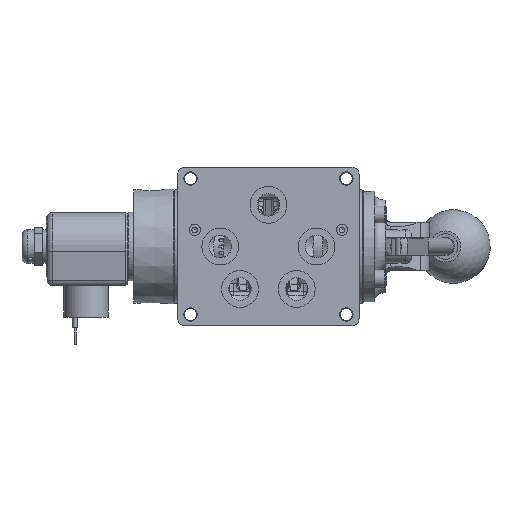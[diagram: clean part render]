
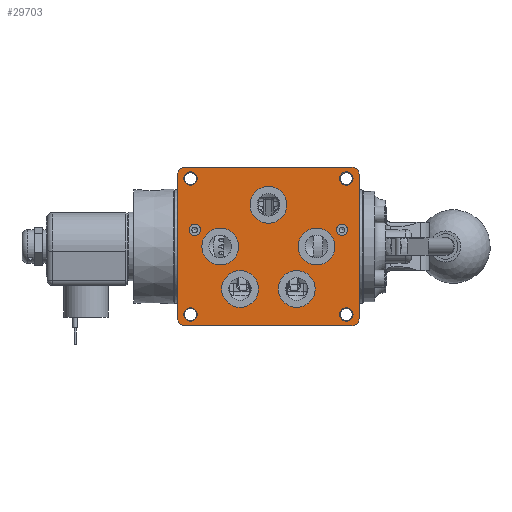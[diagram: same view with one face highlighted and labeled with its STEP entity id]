
A CAD part, front view. The second image highlights one B-rep face of the part: STEP entity #29703.
In plain terms, the highlighted planar face has unit normal (0, -1, 0).
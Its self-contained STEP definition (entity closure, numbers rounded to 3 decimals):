
#2773=PLANE('',#31859);
#3362=FACE_BOUND('',#5700,.T.);
#3363=FACE_BOUND('',#5701,.T.);
#3364=FACE_BOUND('',#5702,.T.);
#3365=FACE_BOUND('',#5703,.T.);
#3366=FACE_BOUND('',#5704,.T.);
#3367=FACE_BOUND('',#5705,.T.);
#3368=FACE_BOUND('',#5706,.T.);
#3369=FACE_BOUND('',#5707,.T.);
#3370=FACE_BOUND('',#5708,.T.);
#3371=FACE_BOUND('',#5709,.T.);
#3372=FACE_BOUND('',#5710,.T.);
#3822=FACE_OUTER_BOUND('',#5699,.T.);
#5699=EDGE_LOOP('',(#21652,#21653,#21654,#21655,#21656,#21657,#21658,#21659));
#5700=EDGE_LOOP('',(#21660));
#5701=EDGE_LOOP('',(#21661));
#5702=EDGE_LOOP('',(#21662));
#5703=EDGE_LOOP('',(#21663));
#5704=EDGE_LOOP('',(#21664));
#5705=EDGE_LOOP('',(#21665));
#5706=EDGE_LOOP('',(#21666));
#5707=EDGE_LOOP('',(#21667));
#5708=EDGE_LOOP('',(#21668));
#5709=EDGE_LOOP('',(#21669));
#5710=EDGE_LOOP('',(#21670));
#8880=LINE('',#45740,#10444);
#8881=LINE('',#45744,#10445);
#8882=LINE('',#45748,#10446);
#8883=LINE('',#45751,#10447);
#10444=VECTOR('',#35729,1.);
#10445=VECTOR('',#35732,1.);
#10446=VECTOR('',#35735,1.);
#10447=VECTOR('',#35738,1.);
#11933=CIRCLE('',#31610,0.318);
#11937=CIRCLE('',#31618,0.318);
#11943=CIRCLE('',#31631,1.031);
#11949=CIRCLE('',#31641,1.031);
#11968=CIRCLE('',#31681,1.031);
#11980=CIRCLE('',#31705,1.031);
#11988=CIRCLE('',#31718,1.031);
#11996=CIRCLE('',#31740,0.381);
#11998=CIRCLE('',#31743,0.381);
#12000=CIRCLE('',#31746,0.381);
#12002=CIRCLE('',#31749,0.381);
#12062=CIRCLE('',#31860,0.397);
#12063=CIRCLE('',#31861,0.397);
#12064=CIRCLE('',#31862,0.397);
#12065=CIRCLE('',#31863,0.397);
#13478=VERTEX_POINT('',#43422);
#13483=VERTEX_POINT('',#43438);
#13509=VERTEX_POINT('',#43660);
#13528=VERTEX_POINT('',#43830);
#13601=VERTEX_POINT('',#44425);
#13626=VERTEX_POINT('',#44685);
#13642=VERTEX_POINT('',#44854);
#13704=VERTEX_POINT('',#45508);
#13706=VERTEX_POINT('',#45514);
#13708=VERTEX_POINT('',#45520);
#13710=VERTEX_POINT('',#45526);
#13770=VERTEX_POINT('',#45736);
#13771=VERTEX_POINT('',#45737);
#13772=VERTEX_POINT('',#45739);
#13773=VERTEX_POINT('',#45741);
#13774=VERTEX_POINT('',#45743);
#13775=VERTEX_POINT('',#45745);
#13776=VERTEX_POINT('',#45747);
#13777=VERTEX_POINT('',#45749);
#16351=EDGE_CURVE('',#13478,#13478,#11933,.T.);
#16358=EDGE_CURVE('',#13483,#13483,#11937,.T.);
#16389=EDGE_CURVE('',#13509,#13509,#11943,.T.);
#16409=EDGE_CURVE('',#13528,#13528,#11949,.T.);
#16505=EDGE_CURVE('',#13601,#13601,#11968,.T.);
#16542=EDGE_CURVE('',#13626,#13626,#11980,.T.);
#16562=EDGE_CURVE('',#13642,#13642,#11988,.T.);
#16644=EDGE_CURVE('',#13704,#13704,#11996,.T.);
#16647=EDGE_CURVE('',#13706,#13706,#11998,.T.);
#16650=EDGE_CURVE('',#13708,#13708,#12000,.T.);
#16653=EDGE_CURVE('',#13710,#13710,#12002,.T.);
#16752=EDGE_CURVE('',#13770,#13771,#12062,.T.);
#16753=EDGE_CURVE('',#13771,#13772,#8880,.T.);
#16754=EDGE_CURVE('',#13772,#13773,#12063,.T.);
#16755=EDGE_CURVE('',#13773,#13774,#8881,.T.);
#16756=EDGE_CURVE('',#13774,#13775,#12064,.T.);
#16757=EDGE_CURVE('',#13775,#13776,#8882,.T.);
#16758=EDGE_CURVE('',#13776,#13777,#12065,.T.);
#16759=EDGE_CURVE('',#13777,#13770,#8883,.T.);
#21652=ORIENTED_EDGE('',*,*,#16752,.T.);
#21653=ORIENTED_EDGE('',*,*,#16753,.T.);
#21654=ORIENTED_EDGE('',*,*,#16754,.T.);
#21655=ORIENTED_EDGE('',*,*,#16755,.T.);
#21656=ORIENTED_EDGE('',*,*,#16756,.T.);
#21657=ORIENTED_EDGE('',*,*,#16757,.T.);
#21658=ORIENTED_EDGE('',*,*,#16758,.T.);
#21659=ORIENTED_EDGE('',*,*,#16759,.T.);
#21660=ORIENTED_EDGE('',*,*,#16351,.T.);
#21661=ORIENTED_EDGE('',*,*,#16358,.T.);
#21662=ORIENTED_EDGE('',*,*,#16389,.T.);
#21663=ORIENTED_EDGE('',*,*,#16409,.T.);
#21664=ORIENTED_EDGE('',*,*,#16505,.T.);
#21665=ORIENTED_EDGE('',*,*,#16542,.T.);
#21666=ORIENTED_EDGE('',*,*,#16562,.T.);
#21667=ORIENTED_EDGE('',*,*,#16644,.T.);
#21668=ORIENTED_EDGE('',*,*,#16647,.T.);
#21669=ORIENTED_EDGE('',*,*,#16650,.T.);
#21670=ORIENTED_EDGE('',*,*,#16653,.T.);
#29703=ADVANCED_FACE('',(#3822,#3362,#3363,#3364,#3365,#3366,#3367,#3368,
#3369,#3370,#3371,#3372),#2773,.T.);
#31610=AXIS2_PLACEMENT_3D('',#43423,#35131,#35132);
#31618=AXIS2_PLACEMENT_3D('',#43439,#35150,#35151);
#31631=AXIS2_PLACEMENT_3D('',#43661,#35180,#35181);
#31641=AXIS2_PLACEMENT_3D('',#43831,#35201,#35202);
#31681=AXIS2_PLACEMENT_3D('',#44426,#35303,#35304);
#31705=AXIS2_PLACEMENT_3D('',#44686,#35359,#35360);
#31718=AXIS2_PLACEMENT_3D('',#44855,#35387,#35388);
#31740=AXIS2_PLACEMENT_3D('',#45509,#35445,#35446);
#31743=AXIS2_PLACEMENT_3D('',#45515,#35452,#35453);
#31746=AXIS2_PLACEMENT_3D('',#45521,#35459,#35460);
#31749=AXIS2_PLACEMENT_3D('',#45527,#35466,#35467);
#31859=AXIS2_PLACEMENT_3D('',#45735,#35725,#35726);
#31860=AXIS2_PLACEMENT_3D('',#45738,#35727,#35728);
#31861=AXIS2_PLACEMENT_3D('',#45742,#35730,#35731);
#31862=AXIS2_PLACEMENT_3D('',#45746,#35733,#35734);
#31863=AXIS2_PLACEMENT_3D('',#45750,#35736,#35737);
#35131=DIRECTION('center_axis',(0.,1.,0.));
#35132=DIRECTION('ref_axis',(1.,0.,0.));
#35150=DIRECTION('center_axis',(0.,1.,0.));
#35151=DIRECTION('ref_axis',(1.,0.,0.));
#35180=DIRECTION('center_axis',(0.,1.,0.));
#35181=DIRECTION('ref_axis',(1.,0.,0.));
#35201=DIRECTION('center_axis',(0.,1.,0.));
#35202=DIRECTION('ref_axis',(1.,0.,0.));
#35303=DIRECTION('center_axis',(0.,1.,0.));
#35304=DIRECTION('ref_axis',(1.,0.,0.));
#35359=DIRECTION('center_axis',(0.,1.,0.));
#35360=DIRECTION('ref_axis',(1.,0.,0.));
#35387=DIRECTION('center_axis',(0.,1.,0.));
#35388=DIRECTION('ref_axis',(1.,0.,0.));
#35445=DIRECTION('center_axis',(0.,1.,0.));
#35446=DIRECTION('ref_axis',(1.,0.,0.));
#35452=DIRECTION('center_axis',(0.,1.,0.));
#35453=DIRECTION('ref_axis',(1.,0.,0.));
#35459=DIRECTION('center_axis',(0.,1.,0.));
#35460=DIRECTION('ref_axis',(1.,0.,0.));
#35466=DIRECTION('center_axis',(0.,1.,0.));
#35467=DIRECTION('ref_axis',(1.,0.,0.));
#35725=DIRECTION('center_axis',(0.,-1.,0.));
#35726=DIRECTION('ref_axis',(0.,0.,-1.));
#35727=DIRECTION('center_axis',(0.,-1.,0.));
#35728=DIRECTION('ref_axis',(0.707,0.,0.707));
#35729=DIRECTION('',(-1.,0.,0.));
#35730=DIRECTION('center_axis',(0.,-1.,0.));
#35731=DIRECTION('ref_axis',(-0.707,0.,0.707));
#35732=DIRECTION('',(0.,0.,-1.));
#35733=DIRECTION('center_axis',(0.,-1.,0.));
#35734=DIRECTION('ref_axis',(-0.707,0.,-0.707));
#35735=DIRECTION('',(1.,0.,0.));
#35736=DIRECTION('center_axis',(0.,-1.,0.));
#35737=DIRECTION('ref_axis',(0.707,0.,-0.707));
#35738=DIRECTION('',(0.,0.,1.));
#43422=CARTESIAN_POINT('',(3.81,-3.335,0.935));
#43423=CARTESIAN_POINT('Origin',(4.128,-3.335,0.935));
#43438=CARTESIAN_POINT('',(-4.445,-3.335,0.935));
#43439=CARTESIAN_POINT('Origin',(-4.128,-3.335,0.935));
#43660=CARTESIAN_POINT('',(0.556,-3.335,-2.38));
#43661=CARTESIAN_POINT('Origin',(1.588,-3.335,-2.38));
#43830=CARTESIAN_POINT('',(-2.619,-3.335,-2.38));
#43831=CARTESIAN_POINT('Origin',(-1.588,-3.335,-2.38));
#44425=CARTESIAN_POINT('',(-1.031,-3.335,2.339));
#44426=CARTESIAN_POINT('Origin',(0.,-3.335,2.339));
#44685=CARTESIAN_POINT('',(1.668,-3.335,0.));
#44686=CARTESIAN_POINT('Origin',(2.699,-3.335,0.));
#44854=CARTESIAN_POINT('',(-3.73,-3.335,0.));
#44855=CARTESIAN_POINT('Origin',(-2.699,-3.335,0.));
#45508=CARTESIAN_POINT('',(3.985,-3.335,3.81));
#45509=CARTESIAN_POINT('Origin',(4.366,-3.335,3.81));
#45514=CARTESIAN_POINT('',(3.985,-3.335,-3.81));
#45515=CARTESIAN_POINT('Origin',(4.366,-3.335,-3.81));
#45520=CARTESIAN_POINT('',(-4.747,-3.335,-3.81));
#45521=CARTESIAN_POINT('Origin',(-4.366,-3.335,-3.81));
#45526=CARTESIAN_POINT('',(-4.747,-3.335,3.81));
#45527=CARTESIAN_POINT('Origin',(-4.366,-3.335,3.81));
#45735=CARTESIAN_POINT('Origin',(5.254,-3.335,0.));
#45736=CARTESIAN_POINT('',(5.08,-3.335,4.048));
#45737=CARTESIAN_POINT('',(4.683,-3.335,4.445));
#45738=CARTESIAN_POINT('Origin',(4.683,-3.335,4.048));
#45739=CARTESIAN_POINT('',(-4.683,-3.335,4.445));
#45740=CARTESIAN_POINT('',(5.167,-3.335,4.445));
#45741=CARTESIAN_POINT('',(-5.08,-3.335,4.048));
#45742=CARTESIAN_POINT('Origin',(-4.683,-3.335,4.048));
#45743=CARTESIAN_POINT('',(-5.08,-3.335,-4.048));
#45744=CARTESIAN_POINT('',(-5.08,-3.335,2.223));
#45745=CARTESIAN_POINT('',(-4.683,-3.335,-4.445));
#45746=CARTESIAN_POINT('Origin',(-4.683,-3.335,-4.048));
#45747=CARTESIAN_POINT('',(4.683,-3.335,-4.445));
#45748=CARTESIAN_POINT('',(0.087,-3.335,-4.445));
#45749=CARTESIAN_POINT('',(5.08,-3.335,-4.048));
#45750=CARTESIAN_POINT('Origin',(4.683,-3.335,-4.048));
#45751=CARTESIAN_POINT('',(5.08,-3.335,-2.223));
